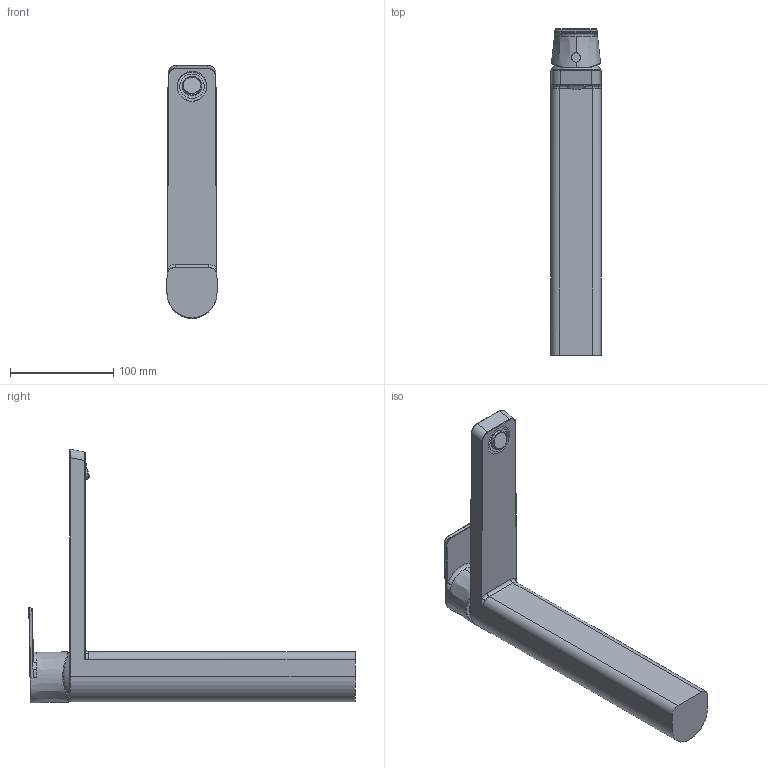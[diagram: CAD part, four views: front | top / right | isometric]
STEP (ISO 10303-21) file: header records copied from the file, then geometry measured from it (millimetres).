
FILE_DESCRIPTION (( 'STEP AP203' ), '1' );
FILE_NAME ('4801F(2021).STEP', '2020-10-15T10:28:20', ( '' ), ( '' ), 'SwSTEP 2.0', 'SolidWorks 2016', '' );
FILE_SCHEMA (( 'CONFIG_CONTROL_DESIGN' ));
Length unit declared in the file: millimetre
Products named in the file (1): 4801F(2021)
Bounding box: 48.5 x 315.66 x 245.13 mm (x, y, z)
Volume: 789889.3 mm3; surface area: 92722.1 mm2
Topology: 4 solids, 4 shells, 93 faces, 221 edges, 139 vertices
Faces by surface type: bspline 49, cylinder 22, plane 19, torus 2, sphere 1
Entity records: 8836 total; most frequent: CARTESIAN_POINT 6929, ORIENTED_EDGE 438, DIRECTION 280, EDGE_CURVE 219, VERTEX_POINT 138, AXIS2_PLACEMENT_3D 106, EDGE_LOOP 97, FACE_OUTER_BOUND 93
